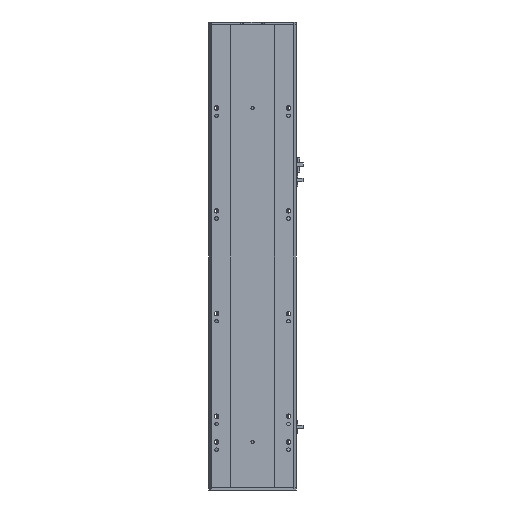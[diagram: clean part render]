
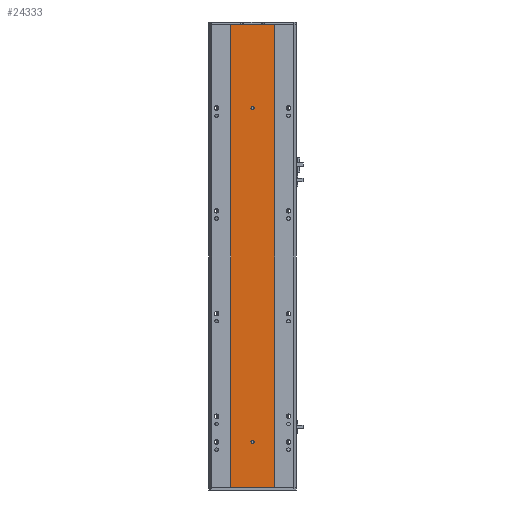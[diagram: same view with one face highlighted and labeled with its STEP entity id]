
A CAD part, front view. The second image highlights one B-rep face of the part: STEP entity #24333.
In plain terms, the highlighted planar face has unit normal (0, -1, 0).
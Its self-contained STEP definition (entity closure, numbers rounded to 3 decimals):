
#173 = EDGE_LOOP ( 'NONE', ( #18338, #15469 ) ) ;
#619 = CARTESIAN_POINT ( 'NONE',  ( 85., 2.57, 88.5 ) ) ;
#965 = CIRCLE ( 'NONE', #11552, 3. ) ;
#1551 = EDGE_LOOP ( 'NONE', ( #12749, #11622 ) ) ;
#2072 = CARTESIAN_POINT ( 'NONE',  ( 126.916, 2.57, 0. ) ) ;
#2566 = DIRECTION ( 'NONE',  ( 0., 0., 1. ) ) ;
#2673 = ORIENTED_EDGE ( 'NONE', *, *, #21564, .F. ) ;
#2770 = LINE ( 'NONE', #17662, #22537 ) ;
#2784 = DIRECTION ( 'NONE',  ( -1., 0., 0. ) ) ;
#4832 = VERTEX_POINT ( 'NONE', #21997 ) ;
#5506 = ORIENTED_EDGE ( 'NONE', *, *, #5852, .T. ) ;
#5829 = CARTESIAN_POINT ( 'NONE',  ( 85., 2.57, 738.5 ) ) ;
#5852 = EDGE_CURVE ( 'NONE', #19615, #19517, #14047, .T. ) ;
#7094 = EDGE_CURVE ( 'NONE', #16395, #4832, #21451, .T. ) ;
#7494 = CARTESIAN_POINT ( 'NONE',  ( 85., 2.57, 738.5 ) ) ;
#7695 = CARTESIAN_POINT ( 'NONE',  ( 42.916, 2.57, 0. ) ) ;
#7745 = DIRECTION ( 'NONE',  ( 0., 0., 1. ) ) ;
#7897 = CIRCLE ( 'NONE', #11934, 3. ) ;
#8137 = EDGE_CURVE ( 'NONE', #4832, #16395, #7897, .T. ) ;
#8345 = ORIENTED_EDGE ( 'NONE', *, *, #23192, .T. ) ;
#8471 = VECTOR ( 'NONE', #13561, 1000. ) ;
#8592 = CARTESIAN_POINT ( 'NONE',  ( 126.916, 2.57, 901. ) ) ;
#8766 = CARTESIAN_POINT ( 'NONE',  ( 85., 2.57, 741.5 ) ) ;
#9198 = DIRECTION ( 'NONE',  ( 0., 1., 0. ) ) ;
#9429 = DIRECTION ( 'NONE',  ( 0., 0., 1. ) ) ;
#9524 = PLANE ( 'NONE',  #17998 ) ;
#9529 = CARTESIAN_POINT ( 'NONE',  ( 42.916, 2.57, 0. ) ) ;
#10251 = CARTESIAN_POINT ( 'NONE',  ( 85., 2.57, 735.5 ) ) ;
#10564 = FACE_BOUND ( 'NONE', #1551, .T. ) ;
#10854 = CIRCLE ( 'NONE', #11328, 3. ) ;
#11328 = AXIS2_PLACEMENT_3D ( 'NONE', #5829, #19257, #7745 ) ;
#11401 = CARTESIAN_POINT ( 'NONE',  ( 42.916, 2.57, 0. ) ) ;
#11489 = DIRECTION ( 'NONE',  ( 0., 0., 1. ) ) ;
#11552 = AXIS2_PLACEMENT_3D ( 'NONE', #7494, #20958, #9429 ) ;
#11622 = ORIENTED_EDGE ( 'NONE', *, *, #24314, .T. ) ;
#11934 = AXIS2_PLACEMENT_3D ( 'NONE', #619, #14069, #2566 ) ;
#11967 = DIRECTION ( 'NONE',  ( -1., 0., 0. ) ) ;
#12350 = CARTESIAN_POINT ( 'NONE',  ( 42.916, 2.57, 901. ) ) ;
#12749 = ORIENTED_EDGE ( 'NONE', *, *, #18088, .T. ) ;
#13561 = DIRECTION ( 'NONE',  ( 0., 0., 1. ) ) ;
#13682 = ORIENTED_EDGE ( 'NONE', *, *, #18858, .F. ) ;
#14047 = LINE ( 'NONE', #12350, #23631 ) ;
#14069 = DIRECTION ( 'NONE',  ( 0., 1., 0. ) ) ;
#15469 = ORIENTED_EDGE ( 'NONE', *, *, #7094, .T. ) ;
#15696 = FACE_OUTER_BOUND ( 'NONE', #19871, .T. ) ;
#15968 = VERTEX_POINT ( 'NONE', #23076 ) ;
#16395 = VERTEX_POINT ( 'NONE', #16992 ) ;
#16992 = CARTESIAN_POINT ( 'NONE',  ( 85., 2.57, 91.5 ) ) ;
#17581 = VERTEX_POINT ( 'NONE', #9529 ) ;
#17662 = CARTESIAN_POINT ( 'NONE',  ( 42.916, 2.57, 0. ) ) ;
#17998 = AXIS2_PLACEMENT_3D ( 'NONE', #11401, #22967, #11489 ) ;
#18088 = EDGE_CURVE ( 'NONE', #18950, #24105, #10854, .T. ) ;
#18338 = ORIENTED_EDGE ( 'NONE', *, *, #8137, .T. ) ;
#18743 = LINE ( 'NONE', #7695, #23860 ) ;
#18858 = EDGE_CURVE ( 'NONE', #15968, #17581, #2770, .T. ) ;
#18950 = VERTEX_POINT ( 'NONE', #10251 ) ;
#19207 = DIRECTION ( 'NONE',  ( 0., 0., 1. ) ) ;
#19257 = DIRECTION ( 'NONE',  ( 0., 1., 0. ) ) ;
#19517 = VERTEX_POINT ( 'NONE', #21709 ) ;
#19615 = VERTEX_POINT ( 'NONE', #8592 ) ;
#19871 = EDGE_LOOP ( 'NONE', ( #5506, #2673, #13682, #8345 ) ) ;
#20161 = FACE_BOUND ( 'NONE', #173, .T. ) ;
#20713 = CARTESIAN_POINT ( 'NONE',  ( 85., 2.57, 88.5 ) ) ;
#20958 = DIRECTION ( 'NONE',  ( 0., 1., 0. ) ) ;
#21451 = CIRCLE ( 'NONE', #22004, 3. ) ;
#21564 = EDGE_CURVE ( 'NONE', #17581, #19517, #18743, .T. ) ;
#21709 = CARTESIAN_POINT ( 'NONE',  ( 42.916, 2.57, 901. ) ) ;
#21997 = CARTESIAN_POINT ( 'NONE',  ( 85., 2.57, 85.5 ) ) ;
#22004 = AXIS2_PLACEMENT_3D ( 'NONE', #20713, #9198, #22639 ) ;
#22537 = VECTOR ( 'NONE', #11967, 1000. ) ;
#22639 = DIRECTION ( 'NONE',  ( 0., 0., 1. ) ) ;
#22967 = DIRECTION ( 'NONE',  ( 0., 1., 0. ) ) ;
#23076 = CARTESIAN_POINT ( 'NONE',  ( 126.916, 2.57, 0. ) ) ;
#23192 = EDGE_CURVE ( 'NONE', #15968, #19615, #23813, .T. ) ;
#23631 = VECTOR ( 'NONE', #2784, 1000. ) ;
#23813 = LINE ( 'NONE', #2072, #8471 ) ;
#23860 = VECTOR ( 'NONE', #19207, 1000. ) ;
#24105 = VERTEX_POINT ( 'NONE', #8766 ) ;
#24314 = EDGE_CURVE ( 'NONE', #24105, #18950, #965, .T. ) ;
#24333 = ADVANCED_FACE ( 'NONE', ( #20161, #10564, #15696 ), #9524, .F. ) ;
